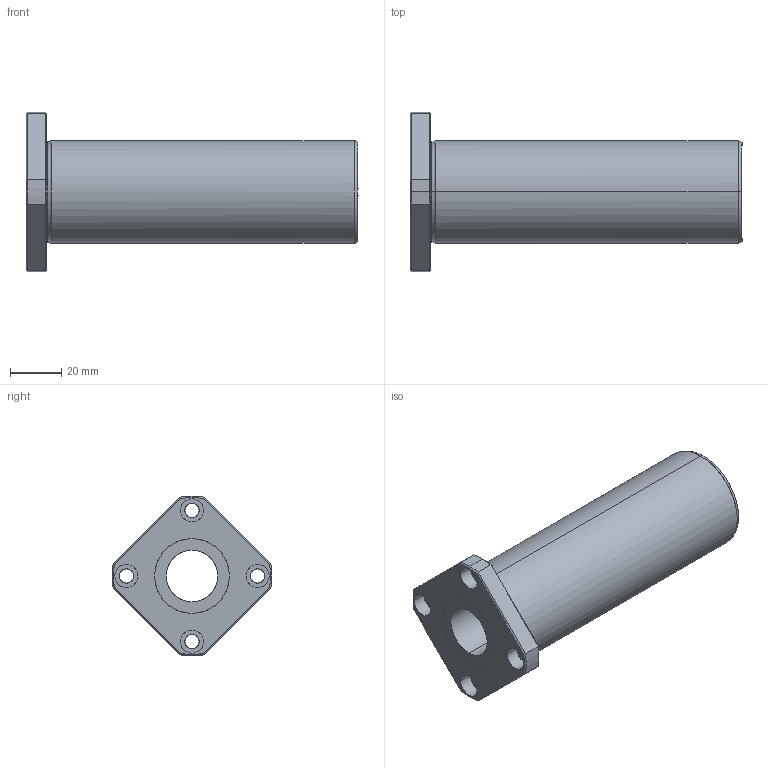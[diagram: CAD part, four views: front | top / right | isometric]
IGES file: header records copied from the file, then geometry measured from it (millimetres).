
Global section: file name: No Iges File Name specified; native system: AutoDesk Inventor R10; preprocessor: AutoDesk Inventor Iges Exporter R10; author: No Author specified; organization: No Organization specified; date: 20101216.172707; units: millimetre
Bounding box: 129 x 61.92 x 62 mm (x, y, z)
Surface area: 29485.2 mm2 (no closed solid volume)
Topology: 0 solids, 0 shells, 69 faces, 416 edges, 416 vertices
Faces by surface type: bspline 69
